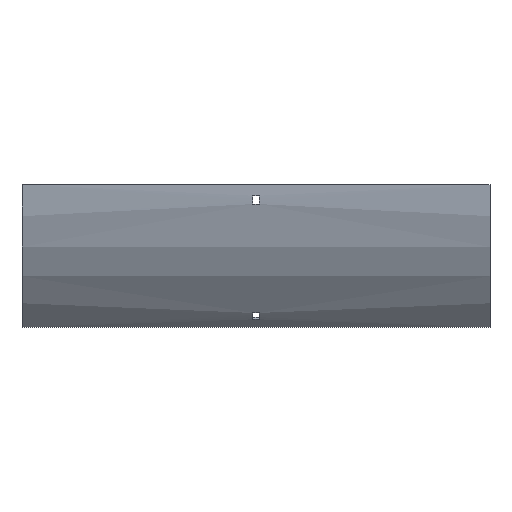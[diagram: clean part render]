
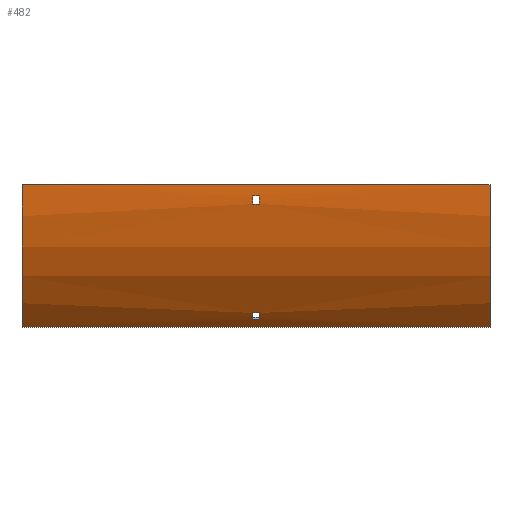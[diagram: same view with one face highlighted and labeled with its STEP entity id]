
A CAD part, front view. The second image highlights one B-rep face of the part: STEP entity #482.
In plain terms, the highlighted cylindrical face has radius 217.5 mm (diameter 435 mm), a partial arc.
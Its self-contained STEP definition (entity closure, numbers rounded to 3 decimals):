
#2 = CARTESIAN_POINT ( 'NONE',  ( 252., -53.796, -153.796 ) ) ;
#17 = CARTESIAN_POINT ( 'NONE',  ( -252., -117.5, 0. ) ) ;
#26 = VERTEX_POINT ( 'NONE', #46 ) ;
#30 = VECTOR ( 'NONE', #1451, 1000. ) ;
#32 = ORIENTED_EDGE ( 'NONE', *, *, #1206, .T. ) ;
#34 = EDGE_CURVE ( 'NONE', #147, #1163, #1212, .T. ) ;
#36 = EDGE_CURVE ( 'NONE', #1641, #1023, #655, .T. ) ;
#37 = DIRECTION ( 'NONE',  ( 1., 0., 0. ) ) ;
#46 = CARTESIAN_POINT ( 'NONE',  ( -3.25, -117.169, -12. ) ) ;
#100 = VERTEX_POINT ( 'NONE', #17 ) ;
#103 = EDGE_LOOP ( 'NONE', ( #1203, #1004, #903, #176 ) ) ;
#126 = VECTOR ( 'NONE', #271, 1000. ) ;
#145 = CARTESIAN_POINT ( 'NONE',  ( 252., -117.5, 0. ) ) ;
#147 = VERTEX_POINT ( 'NONE', #1493 ) ;
#176 = ORIENTED_EDGE ( 'NONE', *, *, #36, .T. ) ;
#194 = CARTESIAN_POINT ( 'NONE',  ( -252., 100., 0. ) ) ;
#210 = CYLINDRICAL_SURFACE ( 'NONE', #1189, 217.5 ) ;
#211 = EDGE_CURVE ( 'NONE', #1394, #1294, #1662, .T. ) ;
#225 = DIRECTION ( 'NONE',  ( -1., 0., 0. ) ) ;
#232 = FACE_OUTER_BOUND ( 'NONE', #505, .T. ) ;
#244 = ORIENTED_EDGE ( 'NONE', *, *, #34, .F. ) ;
#253 = VERTEX_POINT ( 'NONE', #810 ) ;
#271 = DIRECTION ( 'NONE',  ( -1., 0., 0. ) ) ;
#278 = DIRECTION ( 'NONE',  ( -1., 0., 0. ) ) ;
#287 = LINE ( 'NONE', #2, #126 ) ;
#288 = DIRECTION ( 'NONE',  ( -1., 0., 0. ) ) ;
#304 = ORIENTED_EDGE ( 'NONE', *, *, #211, .F. ) ;
#311 = ORIENTED_EDGE ( 'NONE', *, *, #1603, .F. ) ;
#334 = CARTESIAN_POINT ( 'NONE',  ( -3.25, 100., 0. ) ) ;
#354 = CARTESIAN_POINT ( 'NONE',  ( 3.25, -67.926, -138.228 ) ) ;
#360 = FACE_BOUND ( 'NONE', #103, .T. ) ;
#366 = DIRECTION ( 'NONE',  ( 0., 0., 1. ) ) ;
#380 = CIRCLE ( 'NONE', #545, 217.5 ) ;
#405 = DIRECTION ( 'NONE',  ( 0., 0., -1. ) ) ;
#407 = LINE ( 'NONE', #557, #408 ) ;
#408 = VECTOR ( 'NONE', #1469, 1000. ) ;
#439 = EDGE_CURVE ( 'NONE', #1550, #26, #635, .T. ) ;
#454 = CARTESIAN_POINT ( 'NONE',  ( 252., -62.047, -145.076 ) ) ;
#469 = CARTESIAN_POINT ( 'NONE',  ( 3.25, -62.047, -145.076 ) ) ;
#482 = ADVANCED_FACE ( 'NONE', ( #232, #360, #1244 ), #210, .T. ) ;
#505 = EDGE_LOOP ( 'NONE', ( #1518, #1078, #244, #32 ) ) ;
#535 = DIRECTION ( 'NONE',  ( 1., 0., 0. ) ) ;
#545 = AXIS2_PLACEMENT_3D ( 'NONE', #813, #687, #958 ) ;
#553 = DIRECTION ( 'NONE',  ( 0., 0., -1. ) ) ;
#557 = CARTESIAN_POINT ( 'NONE',  ( 252., -67.926, -138.228 ) ) ;
#592 = VERTEX_POINT ( 'NONE', #766 ) ;
#635 = CIRCLE ( 'NONE', #1274, 217.5 ) ;
#653 = LINE ( 'NONE', #145, #1676 ) ;
#655 = CIRCLE ( 'NONE', #1429, 217.5 ) ;
#687 = DIRECTION ( 'NONE',  ( -1., 0., 0. ) ) ;
#690 = EDGE_CURVE ( 'NONE', #1163, #253, #287, .T. ) ;
#702 = EDGE_CURVE ( 'NONE', #1023, #1550, #1552, .T. ) ;
#711 = DIRECTION ( 'NONE',  ( 1., 0., 0. ) ) ;
#742 = DIRECTION ( 'NONE',  ( 1., 0., 0. ) ) ;
#766 = CARTESIAN_POINT ( 'NONE',  ( -3.25, -67.926, -138.228 ) ) ;
#810 = CARTESIAN_POINT ( 'NONE',  ( -252., -53.796, -153.796 ) ) ;
#813 = CARTESIAN_POINT ( 'NONE',  ( 3.25, 100., 0. ) ) ;
#820 = LINE ( 'NONE', #1333, #30 ) ;
#877 = VERTEX_POINT ( 'NONE', #354 ) ;
#889 = CARTESIAN_POINT ( 'NONE',  ( 252., -53.796, -153.796 ) ) ;
#903 = ORIENTED_EDGE ( 'NONE', *, *, #1604, .T. ) ;
#925 = CARTESIAN_POINT ( 'NONE',  ( 3.25, 100., 0. ) ) ;
#946 = CARTESIAN_POINT ( 'NONE',  ( -3.25, -116.484, -21. ) ) ;
#947 = EDGE_CURVE ( 'NONE', #592, #1394, #1475, .T. ) ;
#958 = DIRECTION ( 'NONE',  ( 0., 0., 1. ) ) ;
#1004 = ORIENTED_EDGE ( 'NONE', *, *, #439, .T. ) ;
#1023 = VERTEX_POINT ( 'NONE', #1488 ) ;
#1049 = CARTESIAN_POINT ( 'NONE',  ( 3.25, -117.169, -12. ) ) ;
#1055 = CARTESIAN_POINT ( 'NONE',  ( 252., -116.484, -21. ) ) ;
#1063 = AXIS2_PLACEMENT_3D ( 'NONE', #194, #711, #1217 ) ;
#1075 = EDGE_CURVE ( 'NONE', #1294, #877, #380, .T. ) ;
#1078 = ORIENTED_EDGE ( 'NONE', *, *, #690, .F. ) ;
#1123 = EDGE_CURVE ( 'NONE', #100, #253, #1209, .T. ) ;
#1157 = CARTESIAN_POINT ( 'NONE',  ( -3.25, 100., 0. ) ) ;
#1163 = VERTEX_POINT ( 'NONE', #889 ) ;
#1175 = CARTESIAN_POINT ( 'NONE',  ( -3.25, -62.047, -145.076 ) ) ;
#1189 = AXIS2_PLACEMENT_3D ( 'NONE', #1269, #225, #1635 ) ;
#1203 = ORIENTED_EDGE ( 'NONE', *, *, #702, .T. ) ;
#1206 = EDGE_CURVE ( 'NONE', #147, #100, #653, .T. ) ;
#1209 = CIRCLE ( 'NONE', #1063, 217.5 ) ;
#1212 = CIRCLE ( 'NONE', #1292, 217.5 ) ;
#1217 = DIRECTION ( 'NONE',  ( 0., 0., -1. ) ) ;
#1244 = FACE_BOUND ( 'NONE', #1422, .T. ) ;
#1269 = CARTESIAN_POINT ( 'NONE',  ( 252., 100., 0. ) ) ;
#1274 = AXIS2_PLACEMENT_3D ( 'NONE', #334, #1653, #366 ) ;
#1292 = AXIS2_PLACEMENT_3D ( 'NONE', #1579, #535, #405 ) ;
#1294 = VERTEX_POINT ( 'NONE', #469 ) ;
#1317 = ORIENTED_EDGE ( 'NONE', *, *, #947, .F. ) ;
#1333 = CARTESIAN_POINT ( 'NONE',  ( 252., -117.169, -12. ) ) ;
#1371 = VECTOR ( 'NONE', #278, 1000. ) ;
#1394 = VERTEX_POINT ( 'NONE', #1175 ) ;
#1422 = EDGE_LOOP ( 'NONE', ( #1317, #311, #1556, #304 ) ) ;
#1429 = AXIS2_PLACEMENT_3D ( 'NONE', #925, #37, #553 ) ;
#1451 = DIRECTION ( 'NONE',  ( 1., 0., 0. ) ) ;
#1469 = DIRECTION ( 'NONE',  ( -1., 0., 0. ) ) ;
#1475 = CIRCLE ( 'NONE', #1642, 217.5 ) ;
#1488 = CARTESIAN_POINT ( 'NONE',  ( 3.25, -116.484, -21. ) ) ;
#1493 = CARTESIAN_POINT ( 'NONE',  ( 252., -117.5, 0. ) ) ;
#1518 = ORIENTED_EDGE ( 'NONE', *, *, #1123, .T. ) ;
#1550 = VERTEX_POINT ( 'NONE', #946 ) ;
#1552 = LINE ( 'NONE', #1055, #1371 ) ;
#1556 = ORIENTED_EDGE ( 'NONE', *, *, #1075, .F. ) ;
#1576 = DIRECTION ( 'NONE',  ( 1., 0., 0. ) ) ;
#1579 = CARTESIAN_POINT ( 'NONE',  ( 252., 100., 0. ) ) ;
#1582 = DIRECTION ( 'NONE',  ( 0., 0., -1. ) ) ;
#1585 = VECTOR ( 'NONE', #742, 1000. ) ;
#1603 = EDGE_CURVE ( 'NONE', #877, #592, #407, .T. ) ;
#1604 = EDGE_CURVE ( 'NONE', #26, #1641, #820, .T. ) ;
#1635 = DIRECTION ( 'NONE',  ( 0., 0., 1. ) ) ;
#1641 = VERTEX_POINT ( 'NONE', #1049 ) ;
#1642 = AXIS2_PLACEMENT_3D ( 'NONE', #1157, #1576, #1582 ) ;
#1653 = DIRECTION ( 'NONE',  ( -1., 0., 0. ) ) ;
#1662 = LINE ( 'NONE', #454, #1585 ) ;
#1676 = VECTOR ( 'NONE', #288, 1000. ) ;
